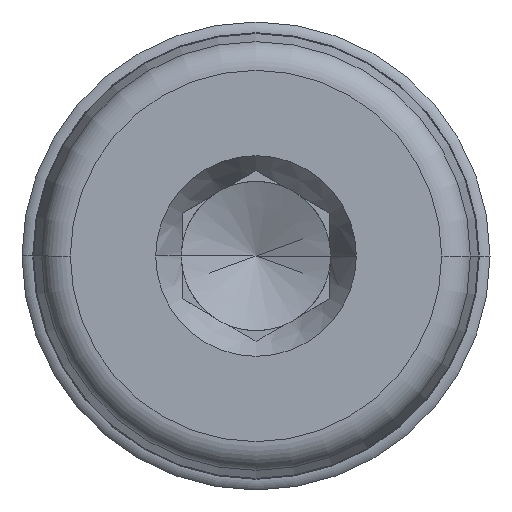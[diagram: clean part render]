
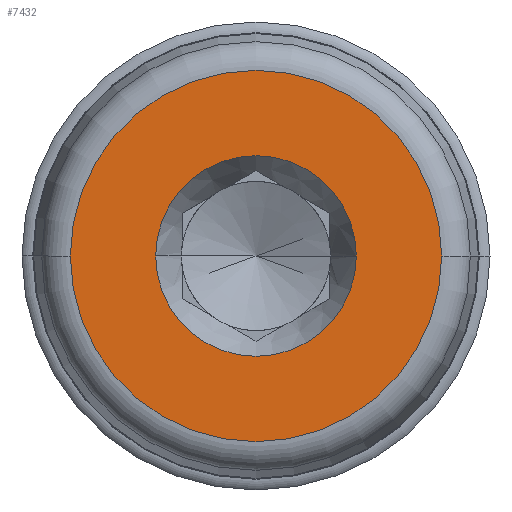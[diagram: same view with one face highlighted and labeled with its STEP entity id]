
A CAD part, front view. The second image highlights one B-rep face of the part: STEP entity #7432.
In plain terms, the highlighted planar face has unit normal (0, -1, 0) as drawn and (-1, 0, 0) by its records, which use the part's own axes.
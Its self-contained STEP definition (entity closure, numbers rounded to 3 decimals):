
#13 = CARTESIAN_POINT ( 'NONE',  ( 0., 0., 6.345 ) ) ;
#84 = ORIENTED_EDGE ( 'NONE', *, *, #2070, .T. ) ;
#175 = AXIS2_PLACEMENT_3D ( 'NONE', #6964, #2387, #608 ) ;
#223 = DIRECTION ( 'NONE',  ( -1., 0., 0. ) ) ;
#248 = DIRECTION ( 'NONE',  ( 0., 0., 1. ) ) ;
#293 = CARTESIAN_POINT ( 'NONE',  ( 0., 0., 0. ) ) ;
#320 = CIRCLE ( 'NONE', #175, 6.345 ) ;
#539 = CARTESIAN_POINT ( 'NONE',  ( 0., 0., 0. ) ) ;
#608 = DIRECTION ( 'NONE',  ( 0., 0., -1. ) ) ;
#876 = DIRECTION ( 'NONE',  ( 0., 0., -1. ) ) ;
#1328 = ORIENTED_EDGE ( 'NONE', *, *, #5840, .F. ) ;
#1497 = VERTEX_POINT ( 'NONE', #3586 ) ;
#2070 = EDGE_CURVE ( 'NONE', #1497, #5287, #3775, .T. ) ;
#2098 = DIRECTION ( 'NONE',  ( 1., 0., 0. ) ) ;
#2127 = FACE_OUTER_BOUND ( 'NONE', #5658, .T. ) ;
#2316 = VERTEX_POINT ( 'NONE', #6752 ) ;
#2323 = CIRCLE ( 'NONE', #2661, 3.429 ) ;
#2334 = EDGE_CURVE ( 'NONE', #5287, #1497, #320, .T. ) ;
#2387 = DIRECTION ( 'NONE',  ( -1., 0., 0. ) ) ;
#2443 = ORIENTED_EDGE ( 'NONE', *, *, #6679, .F. ) ;
#2661 = AXIS2_PLACEMENT_3D ( 'NONE', #539, #4586, #3929 ) ;
#3175 = DIRECTION ( 'NONE',  ( -1., 0., 0. ) ) ;
#3242 = AXIS2_PLACEMENT_3D ( 'NONE', #293, #3175, #4349 ) ;
#3548 = CARTESIAN_POINT ( 'NONE',  ( 0., 0., 3.429 ) ) ;
#3566 = CIRCLE ( 'NONE', #3242, 3.429 ) ;
#3586 = CARTESIAN_POINT ( 'NONE',  ( 0., 0., -6.345 ) ) ;
#3775 = CIRCLE ( 'NONE', #5805, 6.345 ) ;
#3929 = DIRECTION ( 'NONE',  ( 0., 0., 1. ) ) ;
#4349 = DIRECTION ( 'NONE',  ( 0., 0., 1. ) ) ;
#4586 = DIRECTION ( 'NONE',  ( -1., 0., 0. ) ) ;
#4636 = AXIS2_PLACEMENT_3D ( 'NONE', #5003, #2098, #248 ) ;
#5003 = CARTESIAN_POINT ( 'NONE',  ( 0., 0., 0. ) ) ;
#5287 = VERTEX_POINT ( 'NONE', #13 ) ;
#5658 = EDGE_LOOP ( 'NONE', ( #84, #5907 ) ) ;
#5805 = AXIS2_PLACEMENT_3D ( 'NONE', #7234, #223, #876 ) ;
#5840 = EDGE_CURVE ( 'NONE', #2316, #6363, #2323, .T. ) ;
#5907 = ORIENTED_EDGE ( 'NONE', *, *, #2334, .T. ) ;
#6181 = FACE_BOUND ( 'NONE', #6538, .T. ) ;
#6363 = VERTEX_POINT ( 'NONE', #3548 ) ;
#6538 = EDGE_LOOP ( 'NONE', ( #2443, #1328 ) ) ;
#6649 = PLANE ( 'NONE',  #4636 ) ;
#6679 = EDGE_CURVE ( 'NONE', #6363, #2316, #3566, .T. ) ;
#6752 = CARTESIAN_POINT ( 'NONE',  ( 0., 0., -3.429 ) ) ;
#6964 = CARTESIAN_POINT ( 'NONE',  ( 0., 0., 0. ) ) ;
#7234 = CARTESIAN_POINT ( 'NONE',  ( 0., 0., 0. ) ) ;
#7432 = ADVANCED_FACE ( 'NONE', ( #2127, #6181 ), #6649, .F. ) ;
